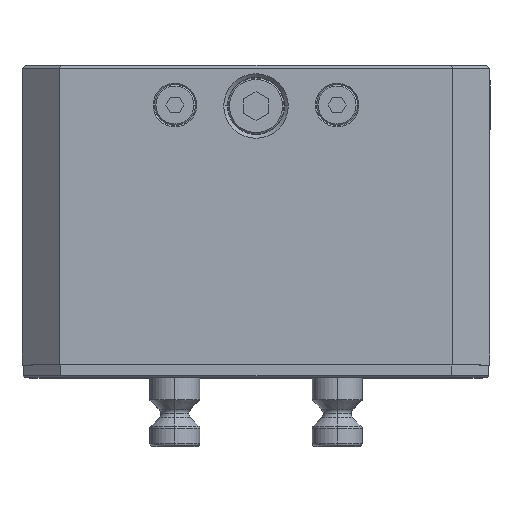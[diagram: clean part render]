
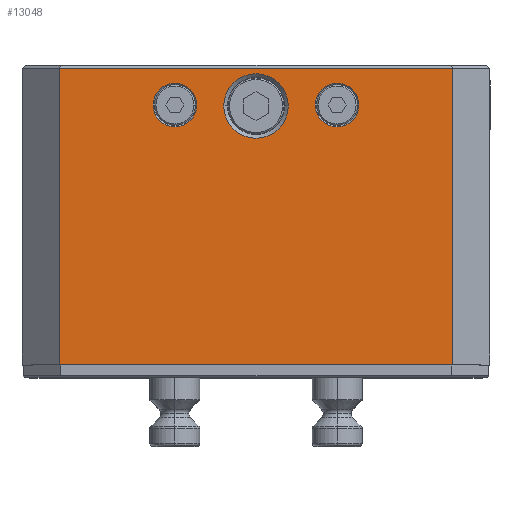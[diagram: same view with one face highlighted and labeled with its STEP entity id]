
A CAD part, top view. The second image highlights one B-rep face of the part: STEP entity #13048.
In plain terms, the highlighted planar face has unit normal (0, 0, 1).
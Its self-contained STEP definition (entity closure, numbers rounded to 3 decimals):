
#41 = CARTESIAN_POINT ( 'NONE',  ( 26., 87.3, 58. ) ) ;
#80 = VECTOR ( 'NONE', #14365, 1000. ) ;
#378 = DIRECTION ( 'NONE',  ( 1., 0., 0. ) ) ;
#629 = EDGE_CURVE ( 'NONE', #7679, #9407, #13182, .T. ) ;
#864 = CARTESIAN_POINT ( 'NONE',  ( -63., 4., 58. ) ) ;
#892 = CIRCLE ( 'NONE', #2846, 10.325 ) ;
#910 = DIRECTION ( 'NONE',  ( 0., 0., 1. ) ) ;
#945 = CARTESIAN_POINT ( 'NONE',  ( 19., 87.3, 58. ) ) ;
#960 = CARTESIAN_POINT ( 'NONE',  ( -26., 87.3, 58. ) ) ;
#986 = CARTESIAN_POINT ( 'NONE',  ( 10.325, 87., 58. ) ) ;
#1059 = ORIENTED_EDGE ( 'NONE', *, *, #5655, .F. ) ;
#1370 = LINE ( 'NONE', #6765, #6284 ) ;
#1764 = VERTEX_POINT ( 'NONE', #10906 ) ;
#1831 = DIRECTION ( 'NONE',  ( 0., 0., 1. ) ) ;
#1919 = CARTESIAN_POINT ( 'NONE',  ( 63., 99., 58. ) ) ;
#2038 = VERTEX_POINT ( 'NONE', #945 ) ;
#2098 = VERTEX_POINT ( 'NONE', #5969 ) ;
#2205 = EDGE_LOOP ( 'NONE', ( #11536, #4984 ) ) ;
#2321 = ORIENTED_EDGE ( 'NONE', *, *, #7400, .F. ) ;
#2521 = CIRCLE ( 'NONE', #3918, 7. ) ;
#2762 = CARTESIAN_POINT ( 'NONE',  ( -63., 289.621, 58. ) ) ;
#2846 = AXIS2_PLACEMENT_3D ( 'NONE', #8563, #1831, #9911 ) ;
#2903 = EDGE_CURVE ( 'NONE', #10588, #7679, #5608, .T. ) ;
#3575 = FACE_BOUND ( 'NONE', #5591, .T. ) ;
#3713 = CIRCLE ( 'NONE', #5357, 10.325 ) ;
#3765 = EDGE_LOOP ( 'NONE', ( #2321, #4784 ) ) ;
#3824 = CIRCLE ( 'NONE', #8131, 7. ) ;
#3852 = CARTESIAN_POINT ( 'NONE',  ( 63., 289.621, 58. ) ) ;
#3890 = VERTEX_POINT ( 'NONE', #8242 ) ;
#3918 = AXIS2_PLACEMENT_3D ( 'NONE', #11884, #5165, #6291 ) ;
#4456 = LINE ( 'NONE', #2762, #80 ) ;
#4554 = CARTESIAN_POINT ( 'NONE',  ( -75., 4., 58. ) ) ;
#4693 = DIRECTION ( 'NONE',  ( 0., 1., 0. ) ) ;
#4709 = VERTEX_POINT ( 'NONE', #11611 ) ;
#4784 = ORIENTED_EDGE ( 'NONE', *, *, #11024, .F. ) ;
#4984 = ORIENTED_EDGE ( 'NONE', *, *, #5593, .F. ) ;
#5103 = EDGE_CURVE ( 'NONE', #1764, #10588, #4456, .T. ) ;
#5165 = DIRECTION ( 'NONE',  ( 0., 0., 1. ) ) ;
#5357 = AXIS2_PLACEMENT_3D ( 'NONE', #6576, #13315, #5449 ) ;
#5449 = DIRECTION ( 'NONE',  ( 1., 0., 0. ) ) ;
#5591 = EDGE_LOOP ( 'NONE', ( #7837, #1059 ) ) ;
#5593 = EDGE_CURVE ( 'NONE', #2098, #9375, #8781, .T. ) ;
#5608 = LINE ( 'NONE', #4554, #7940 ) ;
#5638 = DIRECTION ( 'NONE',  ( -1., 0., 0. ) ) ;
#5655 = EDGE_CURVE ( 'NONE', #4709, #8987, #892, .T. ) ;
#5794 = DIRECTION ( 'NONE',  ( 0., 0., -1. ) ) ;
#5829 = CARTESIAN_POINT ( 'NONE',  ( 63., 4., 58. ) ) ;
#5969 = CARTESIAN_POINT ( 'NONE',  ( -33., 87.3, 58. ) ) ;
#6060 = ORIENTED_EDGE ( 'NONE', *, *, #2903, .T. ) ;
#6284 = VECTOR ( 'NONE', #5638, 1000. ) ;
#6291 = DIRECTION ( 'NONE',  ( 1., 0., 0. ) ) ;
#6494 = VECTOR ( 'NONE', #4693, 1000. ) ;
#6503 = DIRECTION ( 'NONE',  ( 1., 0., 0. ) ) ;
#6576 = CARTESIAN_POINT ( 'NONE',  ( 0., 87., 58. ) ) ;
#6760 = DIRECTION ( 'NONE',  ( 0., 0., 1. ) ) ;
#6765 = CARTESIAN_POINT ( 'NONE',  ( -63., 99., 58. ) ) ;
#6967 = DIRECTION ( 'NONE',  ( 0., 0., 1. ) ) ;
#7400 = EDGE_CURVE ( 'NONE', #3890, #2038, #8565, .T. ) ;
#7532 = CARTESIAN_POINT ( 'NONE',  ( -19., 87.3, 58. ) ) ;
#7679 = VERTEX_POINT ( 'NONE', #5829 ) ;
#7837 = ORIENTED_EDGE ( 'NONE', *, *, #10201, .F. ) ;
#7912 = EDGE_CURVE ( 'NONE', #9375, #2098, #3824, .T. ) ;
#7940 = VECTOR ( 'NONE', #11870, 1000. ) ;
#8131 = AXIS2_PLACEMENT_3D ( 'NONE', #960, #910, #6503 ) ;
#8239 = EDGE_CURVE ( 'NONE', #9407, #1764, #1370, .T. ) ;
#8242 = CARTESIAN_POINT ( 'NONE',  ( 33., 87.3, 58. ) ) ;
#8563 = CARTESIAN_POINT ( 'NONE',  ( 0., 87., 58. ) ) ;
#8565 = CIRCLE ( 'NONE', #8771, 7. ) ;
#8771 = AXIS2_PLACEMENT_3D ( 'NONE', #41, #6760, #13501 ) ;
#8781 = CIRCLE ( 'NONE', #9144, 7. ) ;
#8987 = VERTEX_POINT ( 'NONE', #986 ) ;
#9141 = ORIENTED_EDGE ( 'NONE', *, *, #629, .T. ) ;
#9142 = AXIS2_PLACEMENT_3D ( 'NONE', #9924, #5794, #10531 ) ;
#9144 = AXIS2_PLACEMENT_3D ( 'NONE', #11469, #6967, #378 ) ;
#9375 = VERTEX_POINT ( 'NONE', #7532 ) ;
#9407 = VERTEX_POINT ( 'NONE', #1919 ) ;
#9453 = ORIENTED_EDGE ( 'NONE', *, *, #8239, .T. ) ;
#9571 = FACE_OUTER_BOUND ( 'NONE', #11137, .T. ) ;
#9911 = DIRECTION ( 'NONE',  ( 1., 0., 0. ) ) ;
#9924 = CARTESIAN_POINT ( 'NONE',  ( -75., 289.621, 58. ) ) ;
#10126 = ORIENTED_EDGE ( 'NONE', *, *, #5103, .T. ) ;
#10201 = EDGE_CURVE ( 'NONE', #8987, #4709, #3713, .T. ) ;
#10531 = DIRECTION ( 'NONE',  ( -1., 0., 0. ) ) ;
#10588 = VERTEX_POINT ( 'NONE', #864 ) ;
#10837 = PLANE ( 'NONE',  #9142 ) ;
#10906 = CARTESIAN_POINT ( 'NONE',  ( -63., 99., 58. ) ) ;
#11024 = EDGE_CURVE ( 'NONE', #2038, #3890, #2521, .T. ) ;
#11137 = EDGE_LOOP ( 'NONE', ( #9141, #9453, #10126, #6060 ) ) ;
#11469 = CARTESIAN_POINT ( 'NONE',  ( -26., 87.3, 58. ) ) ;
#11536 = ORIENTED_EDGE ( 'NONE', *, *, #7912, .F. ) ;
#11611 = CARTESIAN_POINT ( 'NONE',  ( -10.325, 87., 58. ) ) ;
#11870 = DIRECTION ( 'NONE',  ( 1., 0., 0. ) ) ;
#11884 = CARTESIAN_POINT ( 'NONE',  ( 26., 87.3, 58. ) ) ;
#12369 = FACE_BOUND ( 'NONE', #3765, .T. ) ;
#12794 = FACE_BOUND ( 'NONE', #2205, .T. ) ;
#13048 = ADVANCED_FACE ( 'NONE', ( #12369, #12794, #3575, #9571 ), #10837, .F. ) ;
#13182 = LINE ( 'NONE', #3852, #6494 ) ;
#13315 = DIRECTION ( 'NONE',  ( 0., 0., 1. ) ) ;
#13501 = DIRECTION ( 'NONE',  ( 1., 0., 0. ) ) ;
#14365 = DIRECTION ( 'NONE',  ( 0., -1., 0. ) ) ;
